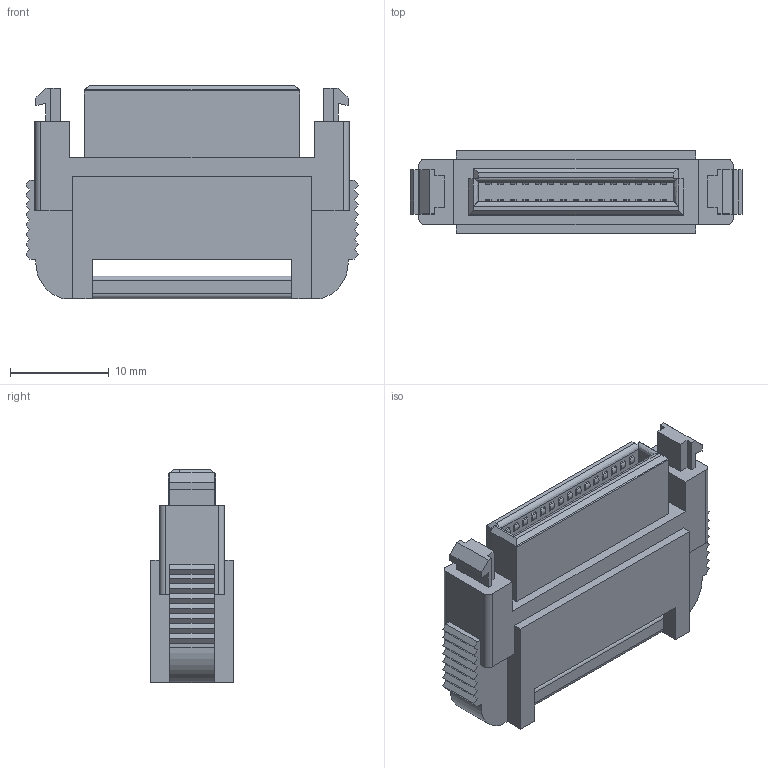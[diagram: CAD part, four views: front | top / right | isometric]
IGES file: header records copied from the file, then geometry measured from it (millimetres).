
Start section: Elysium IGES Interface
Global section: file name: C:\Users\1529\Desktop\‰c‹Æ‹Æ–±3DCADˆË—Š‘Î‰ž\8822-XXX-171X-F\P3D800_8822-030-171X-F.igs; native system: Creo Elements/Direct Modeling 20.4A  18-Oct-2021; preprocessor: Creo Element/Direct IGES_3D V2.2; author: Unknown; organization: Unknown; date: 20230328.102903; units: millimetre
Bounding box: 33.58 x 8.4 x 21.6 mm (x, y, z)
Volume: 3601.1 mm3; surface area: 2841.8 mm2
Topology: 1 solids, 1 shells, 502 faces, 1338 edges, 870 vertices
Faces by surface type: bspline 502
